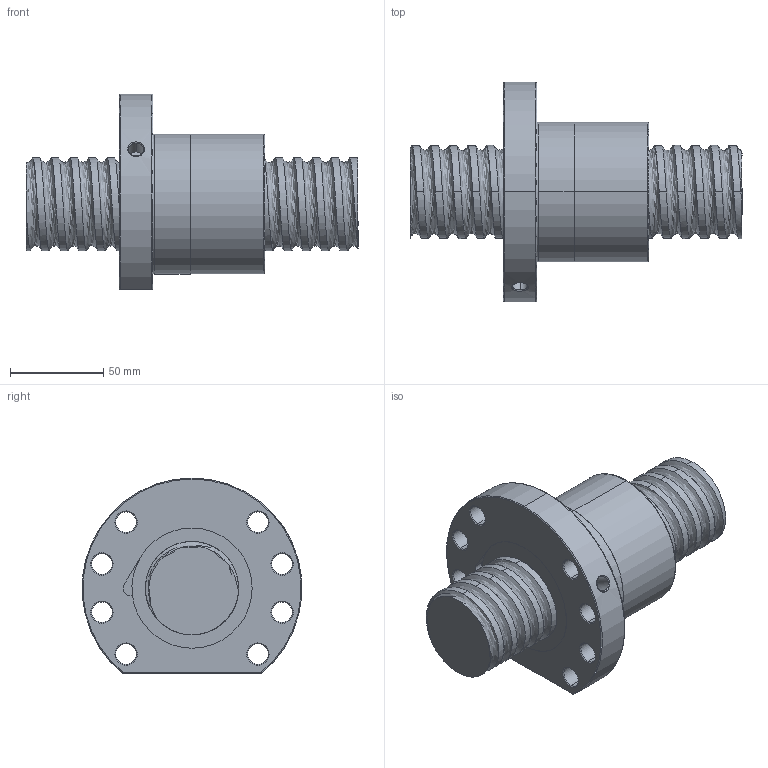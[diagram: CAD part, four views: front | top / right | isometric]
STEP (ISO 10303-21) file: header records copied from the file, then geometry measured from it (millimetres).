
FILE_DESCRIPTION (( 'STEP AP214' ), '1' );
FILE_NAME ('FSDC05010T5-F-B.STEP', '2010-06-25T12:17:22', ( 'XPAUTO' ), ( 'XPAUTO' ), 'SwSTEP 2.0', 'SolidWorks 2007', '' );
FILE_SCHEMA (( 'AUTOMOTIVE_DESIGN' ));
Length unit declared in the file: millimetre
Products named in the file (3): FSDC05010T5-F-B.sldasm-Part-1_預設; FSDC05010T5-F-B.sldasm-Part-2_預設; FSDC05010T5-F-B
Assembly tree (2 placements, depth 2):
  FSDC05010T5-F-B
    FSDC05010T5-F-B.sldasm-Part-2_預設
    FSDC05010T5-F-B.sldasm-Part-1_預設
Bounding box: 178 x 117.69 x 105 mm (x, y, z)
Volume: 598997.3 mm3; surface area: 91288.6 mm2
Topology: 2 solids, 2 shells, 139 faces, 346 edges, 216 vertices
Faces by surface type: cylinder 78, cone 32, plane 19, bspline 5, torus 5
Entity records: 27196 total; most frequent: CARTESIAN_POINT 23877, ORIENTED_EDGE 692, DIRECTION 650, EDGE_CURVE 346, AXIS2_PLACEMENT_3D 264, VERTEX_POINT 216, EDGE_LOOP 164, FACE_OUTER_BOUND 139
